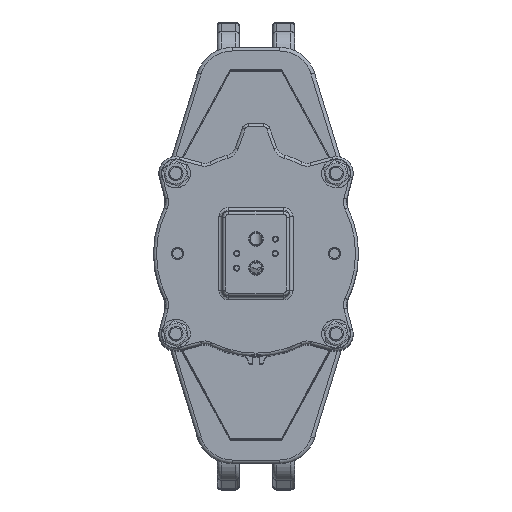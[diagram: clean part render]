
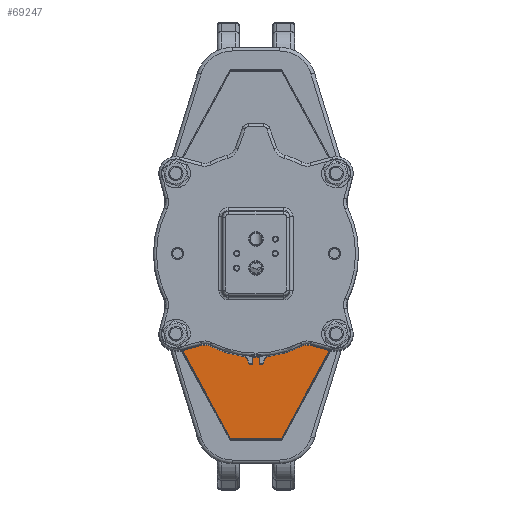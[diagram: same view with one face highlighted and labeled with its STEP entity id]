
A CAD part, top view. The second image highlights one B-rep face of the part: STEP entity #69247.
In plain terms, the highlighted planar face has unit normal (0, 0, 1).
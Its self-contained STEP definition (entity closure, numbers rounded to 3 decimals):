
#4230=PLANE('',#75346);
#6772=LINE('',#120434,#11281);
#6774=LINE('',#120440,#11283);
#6779=LINE('',#120449,#11288);
#6785=LINE('',#120461,#11294);
#6787=LINE('',#120465,#11296);
#6789=LINE('',#120469,#11298);
#6791=LINE('',#120472,#11300);
#6792=LINE('',#120474,#11301);
#11281=VECTOR('',#88415,10.);
#11283=VECTOR('',#88419,10.);
#11288=VECTOR('',#88426,10.);
#11294=VECTOR('',#88436,10.);
#11296=VECTOR('',#88440,10.);
#11298=VECTOR('',#88444,10.);
#11300=VECTOR('',#88448,10.);
#11301=VECTOR('',#88451,10.);
#16928=FACE_OUTER_BOUND('',#21260,.T.);
#21260=EDGE_LOOP('',(#54001,#54002,#54003,#54004,#54005,#54006,#54007,#54008));
#30935=VERTEX_POINT('',#120428);
#30937=VERTEX_POINT('',#120432);
#30938=VERTEX_POINT('',#120436);
#30940=VERTEX_POINT('',#120439);
#30943=VERTEX_POINT('',#120447);
#30947=VERTEX_POINT('',#120460);
#30948=VERTEX_POINT('',#120464);
#30949=VERTEX_POINT('',#120468);
#39258=EDGE_CURVE('',#30935,#30937,#6772,.T.);
#39260=EDGE_CURVE('',#30940,#30938,#6774,.T.);
#39265=EDGE_CURVE('',#30943,#30937,#6779,.T.);
#39271=EDGE_CURVE('',#30940,#30947,#6785,.T.);
#39273=EDGE_CURVE('',#30947,#30948,#6787,.T.);
#39275=EDGE_CURVE('',#30948,#30949,#6789,.T.);
#39277=EDGE_CURVE('',#30949,#30943,#6791,.T.);
#39278=EDGE_CURVE('',#30935,#30938,#6792,.T.);
#54001=ORIENTED_EDGE('',*,*,#39260,.T.);
#54002=ORIENTED_EDGE('',*,*,#39278,.F.);
#54003=ORIENTED_EDGE('',*,*,#39258,.T.);
#54004=ORIENTED_EDGE('',*,*,#39265,.F.);
#54005=ORIENTED_EDGE('',*,*,#39277,.F.);
#54006=ORIENTED_EDGE('',*,*,#39275,.F.);
#54007=ORIENTED_EDGE('',*,*,#39273,.F.);
#54008=ORIENTED_EDGE('',*,*,#39271,.F.);
#69247=ADVANCED_FACE('',(#16928),#4230,.F.);
#75346=AXIS2_PLACEMENT_3D('',#120473,#88449,#88450);
#88415=DIRECTION('',(1.,0.,0.));
#88419=DIRECTION('',(1.,0.,0.));
#88426=DIRECTION('',(-0.477,-0.879,0.));
#88436=DIRECTION('',(-0.477,0.879,0.));
#88440=DIRECTION('',(0.,1.,0.));
#88444=DIRECTION('',(1.,0.,0.));
#88448=DIRECTION('',(0.,-1.,0.));
#88449=DIRECTION('center_axis',(0.,0.,
-1.));
#88450=DIRECTION('ref_axis',(-1.,0.,0.));
#88451=DIRECTION('',(-1.,0.,0.));
#120428=CARTESIAN_POINT('',(20.584,-152.,578.7));
#120432=CARTESIAN_POINT('',(21.344,-152.,578.7));
#120434=CARTESIAN_POINT('',(-10.672,-152.,578.7));
#120436=CARTESIAN_POINT('',(-20.584,-152.,578.7));
#120439=CARTESIAN_POINT('',(-21.344,-152.,578.7));
#120440=CARTESIAN_POINT('',(-10.672,-152.,578.7));
#120447=CARTESIAN_POINT('',(67.,-67.91,578.7));
#120449=CARTESIAN_POINT('',(67.,-67.91,578.7));
#120460=CARTESIAN_POINT('',(-67.,-67.91,578.7));
#120461=CARTESIAN_POINT('',(-20.584,-153.4,578.7));
#120464=CARTESIAN_POINT('',(-67.,-59.7,578.7));
#120465=CARTESIAN_POINT('',(-67.,-67.91,578.7));
#120468=CARTESIAN_POINT('',(67.,-59.7,578.7));
#120469=CARTESIAN_POINT('',(-67.,-59.7,578.7));
#120472=CARTESIAN_POINT('',(67.,-59.7,578.7));
#120473=CARTESIAN_POINT('Origin',(0.,-95.538,
578.7));
#120474=CARTESIAN_POINT('',(-20.584,-152.,578.7));
